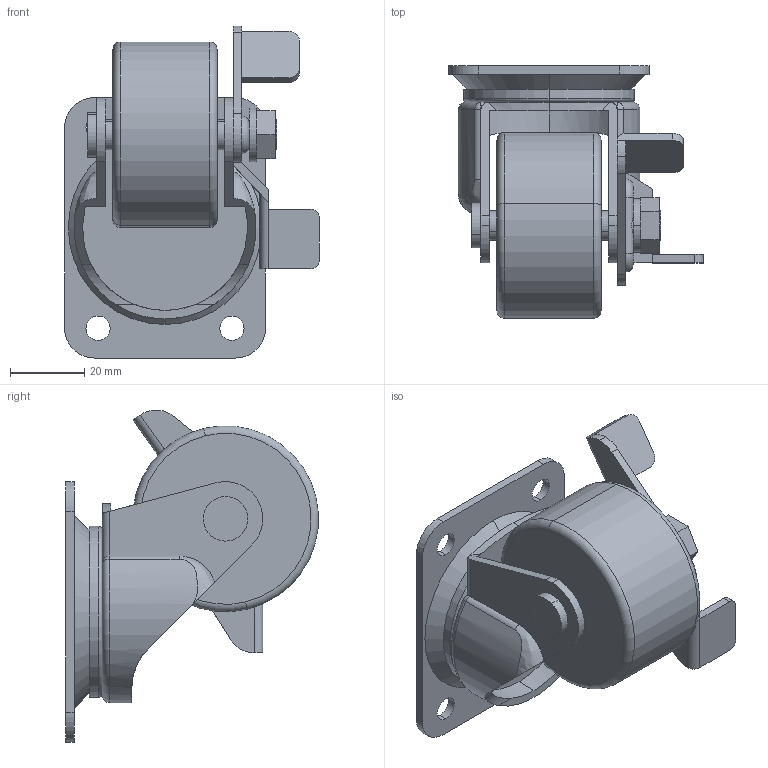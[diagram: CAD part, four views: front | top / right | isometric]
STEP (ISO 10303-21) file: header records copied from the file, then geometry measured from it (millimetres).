
FILE_DESCRIPTION (( 'STEP AP214' ), '1' );
FILE_NAME ('HG-50GNBS (P54x36).STEP', '2020-04-03T15:37:18', ( '' ), ( '' ), 'SwSTEP 2.0', 'SolidWorks 2019', '' );
FILE_SCHEMA (( 'AUTOMOTIVE_DESIGN' ));
Length unit declared in the file: millimetre
Products named in the file (8): M8 t5_nut; HG-50GNB_wheel; HG-50GNBS_jiku; M8 t2_SW; HG-50GNBS (P54x36); HG-50GNBS_stopper; HG-50GNB (P54_36)_partsA; HG-50GNB_PartsB
Assembly tree (7 placements, depth 2):
  HG-50GNBS (P54x36)
    HG-50GNB_PartsB
    HG-50GNB_wheel
    HG-50GNB (P54_36)_partsA
    HG-50GNBS_stopper
    HG-50GNBS_jiku
    M8 t2_SW
    M8 t5_nut
Bounding box: 68.5 x 67.95 x 89.25 mm (x, y, z)
Volume: 94728.6 mm3; surface area: 34727.6 mm2
Topology: 7 solids, 7 shells, 143 faces, 356 edges, 228 vertices
Faces by surface type: cylinder 66, plane 62, torus 9, bspline 2, sphere 2, cone 2
Entity records: 5224 total; most frequent: CARTESIAN_POINT 1419, DIRECTION 764, ORIENTED_EDGE 708, EDGE_CURVE 354, AXIS2_PLACEMENT_3D 290, VERTEX_POINT 228, VECTOR 184, LINE 184
